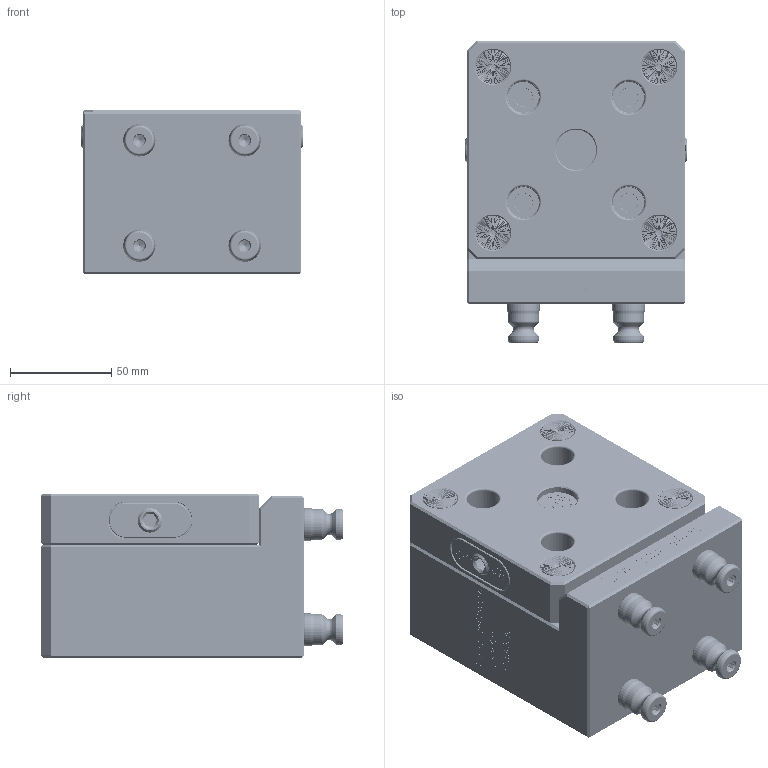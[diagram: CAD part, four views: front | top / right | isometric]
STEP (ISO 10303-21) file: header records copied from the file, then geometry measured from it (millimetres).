
FILE_DESCRIPTION((''),'2;1');
FILE_NAME('TS52-9052_SS','2023-11-22T15:51:23',('XF'),(''),'CREO PARAMETRIC BY PTC INC, 2022073','CREO PARAMETRIC BY PTC INC, 2022073','');
FILE_SCHEMA(('CONFIG_CONTROL_DESIGN'));
Products named in the file (1): TS52-9052_SS
Bounding box: 110 x 149.56 x 81 mm (x, y, z)
Volume: 1096100 mm3; surface area: 94352.7 mm2
Topology: 5 solids, 32 shells, 5187 faces, 12872 edges, 8276 vertices
Faces by surface type: plane 2108, extrusion 1365, cone 1290, cylinder 282, torus 112, bspline 30
Entity records: 161665 total; most frequent: CARTESIAN_POINT 42036, ORIENTED_EDGE 25712, DIRECTION 21493, EDGE_CURVE 12856, VECTOR 8653, VERTEX_POINT 8276, LINE 7288, AXIS2_PLACEMENT_3D 6420
